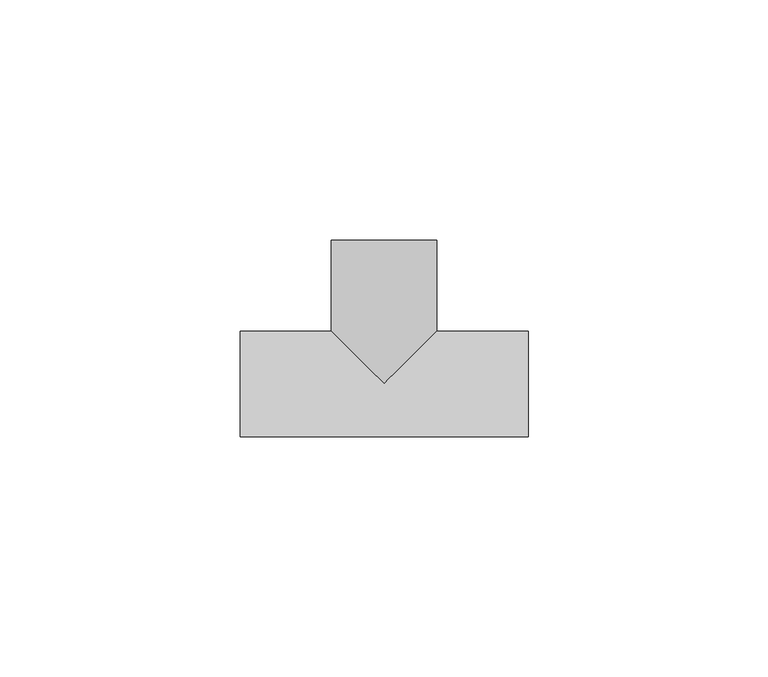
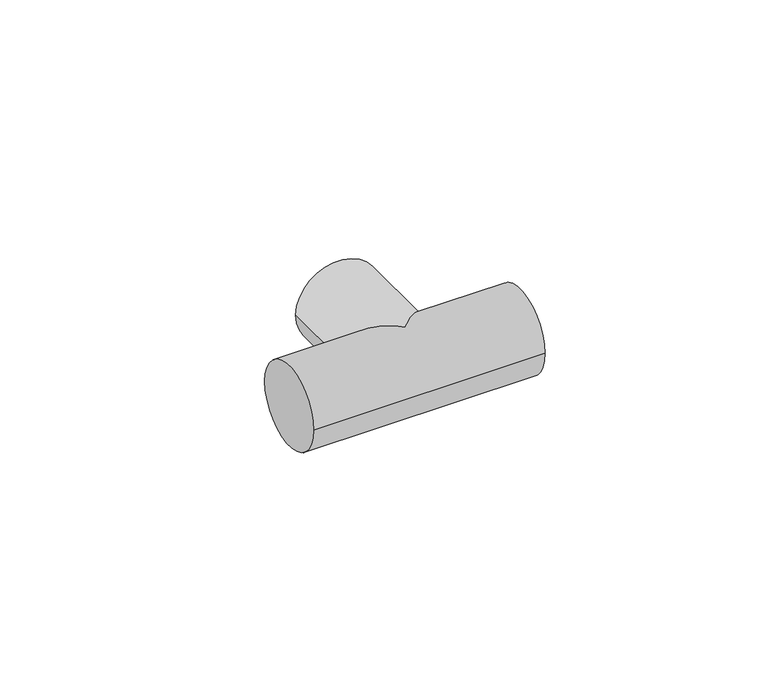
"""IFC4 building model written with IfcOpenShell, lengths in millimetres: cable carrier fitting geometry, Тройник_соед._для_трубы : Тройник соед. для трубы 20 мм (5шт) сосна."""

from ifc_helpers import new_model, si_unit, frame, origin, place, context, project, spatial, circle_curve, ellipse_curve, source, transform, mapped, element, save
from ifc_brep_helpers import plane_surface, cylinder_surface, advanced_brep


def cable_carrier_fitting_152d4620(model_context):
    return source(origin(), model_context, "Body", "AdvancedBrep", [
        advanced_brep(
        [(30.0, -11.0, 0.0), (30.0, 11.0, 0.0), (-30.0, -11.0, 0.0), (-30.0, 11.0, 0.0), (-11.0, 11.0, 0.0), (0.0, 0.0, -11.0), (11.0, 11.0, 0.0), (0.0, 0.0, 11.0), (-11.0, 30.0, 0.0), (11.0, 30.0, 0.0)],
        [
            (0, 1, circle_curve(frame((30.0, 0.0, 0.0), z_axis=(1.0, 0.0, 0.0), x_axis=(0.0, 1.0, 0.0)), 11.0)),
            (1, 0, circle_curve(frame((30.0, 0.0, 0.0), z_axis=(1.0, 0.0, 0.0), x_axis=(0.0, 1.0, 0.0)), 11.0)),
            (2, 3, circle_curve(frame((-30.0, 0.0, 0.0), z_axis=(-1.0, 0.0, 0.0), x_axis=(0.0, 1.0, 0.0)), 11.0)),
            (3, 2, circle_curve(frame((-30.0, 0.0, 0.0), z_axis=(-1.0, 0.0, 0.0), x_axis=(0.0, 1.0, 0.0)), 11.0)),
            (0, 2),
            (3, 4),
            (4, 5, ellipse_curve(frame((0.0, 0.0, 0.0), z_axis=(-0.7071067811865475, -0.7071067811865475, 0.0), x_axis=(0.7071067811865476, -0.7071067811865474, 0.0)), 15.5563492, 11.0)),
            (5, 6, ellipse_curve(frame((0.0, 0.0, 0.0), z_axis=(0.7071067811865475, -0.7071067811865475, 0.0), x_axis=(0.7071067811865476, 0.7071067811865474, 0.0)), 15.5563492, 11.0)),
            (6, 1),
            (6, 7, ellipse_curve(frame((0.0, 0.0, 0.0), z_axis=(0.7071067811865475, -0.7071067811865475, 0.0), x_axis=(0.7071067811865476, 0.7071067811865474, 0.0)), 15.5563492, 11.0)),
            (7, 4, ellipse_curve(frame((0.0, 0.0, 0.0), z_axis=(-0.7071067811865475, -0.7071067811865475, 0.0), x_axis=(0.7071067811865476, -0.7071067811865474, 0.0)), 15.5563492, 11.0)),
            (8, 9, circle_curve(frame((0.0, 30.0, 0.0), z_axis=(0.0, 1.0, 0.0), x_axis=(0.9999999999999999, 0.0, 0.0)), 11.0)),
            (9, 8, circle_curve(frame((0.0, 30.0, 0.0), z_axis=(0.0, 1.0, 0.0), x_axis=(0.9999999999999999, 0.0, 0.0)), 11.0)),
            (9, 6),
            (4, 8),
        ],
        [
            plane_surface(frame((30.0, 11.0, 0.0), z_axis=(1.0, 0.0, 0.0), x_axis=(0.0, 0.0, 1.0))),
            plane_surface(frame((-30.0, 11.0, 0.0), z_axis=(-1.0, 0.0, 0.0), x_axis=(0.0, 0.0, -1.0))),
            cylinder_surface(frame((-30.0, 0.0, 0.0), z_axis=(0.9999999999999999, 0.0, 0.0), x_axis=(0.0, 1.0, 0.0)), 11.0),
            plane_surface(frame((11.0, 30.0, 0.0), z_axis=(0.0, 1.0, 0.0), x_axis=(0.0, 0.0, -1.0))),
            cylinder_surface(frame((0.0, 30.0, 0.0), z_axis=(0.0, -0.9999999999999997, 0.0), x_axis=(0.9999999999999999, 0.0, 0.0)), 11.0),
        ],
        [
            (0, [[1, 2]]),
            (1, [[3, 4]]),
            (2, [[-1, 5, -4, 6, 7, 8, 9]]),
            (2, [[-2, -9, 10, 11, -6, -3, -5]]),
            (3, [[12, 13]]),
            (4, [[-13, 14, -8, -7, 15]]),
            (4, [[-12, -15, -11, -10, -14]]),
        ],
    ),
    ])


if __name__ == "__main__":
    model = new_model("IFC4")
    model_context = context("Model", 3, world=origin())
    ifc_project = project(units=[si_unit("LENGTHUNIT", "METRE", prefix="MILLI")], contexts=[model_context])
    site = spatial("IfcSite", under=ifc_project)
    building = spatial("IfcBuilding", under=site)
    placement = place(None, origin())
    cable_carrier_fitting_shape = cable_carrier_fitting_152d4620(model_context)
    element("IfcCableCarrierFitting", 1, ObjectType="Тройник_соед._для_трубы : Тройник соед. для трубы 20 мм (5шт) сосна", at=placement, inside=building, context=model_context, shape_type="MappedRepresentation", body=[
        mapped(cable_carrier_fitting_shape, transform((0.0, 0.0, 0.0), x_axis=(1.0, 0.0, 0.0), y_axis=(0.0, 1.0, 0.0), z_axis=(0.0, 0.0, 1.0))),
    ])
    save(model, "model.ifc")
